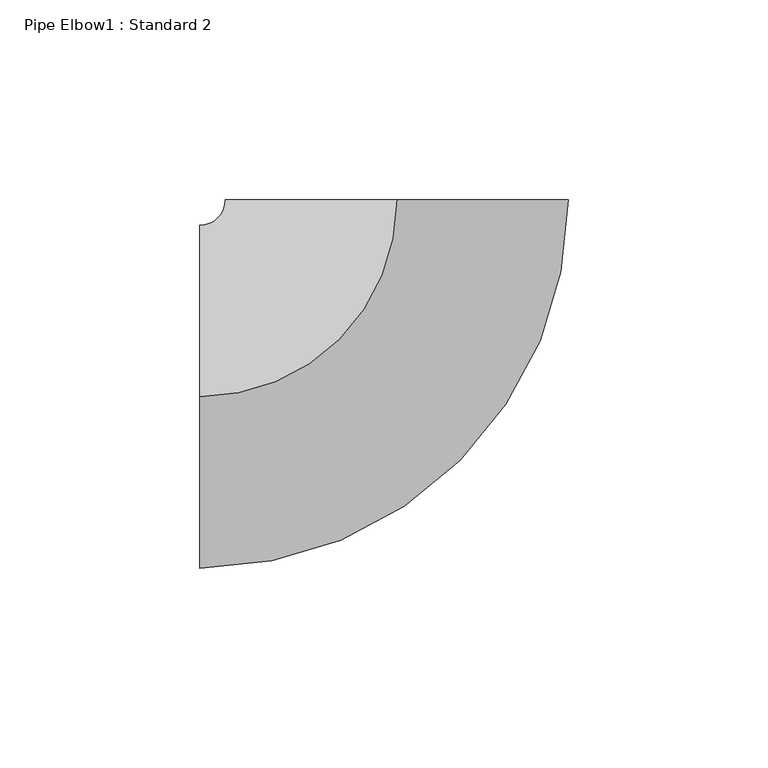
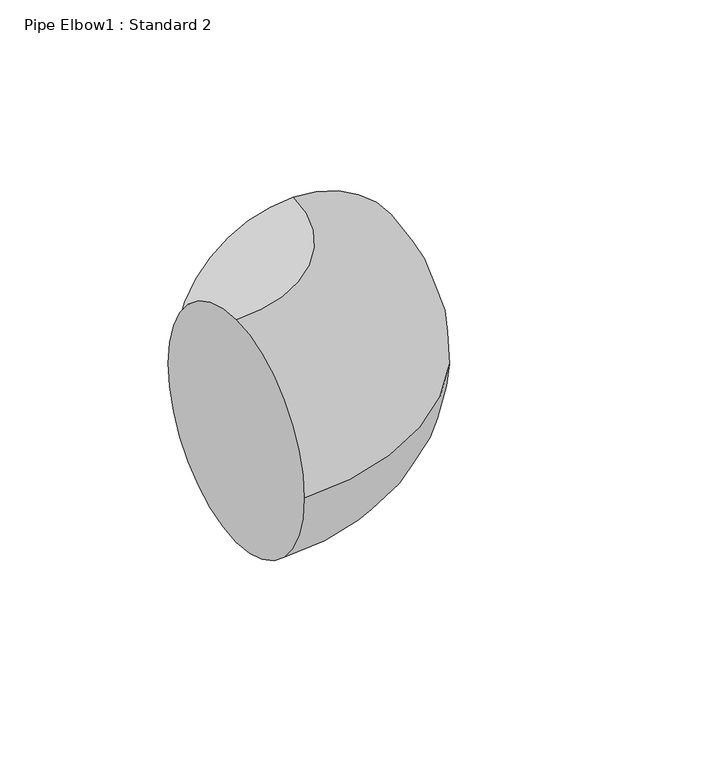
"""IFC4 building model written with IfcOpenShell, lengths in millimetres: pipe fitting geometry, Pipe Elbow1 : Standard 2."""

import ifcopenshell
import ifcopenshell.guid

model = None  # the IFC model being written
_history = None  # IfcOwnerHistory: only IFC2X3 demands one
_inside = {}  # id of a spatial element -> (the spatial element, [elements in it])
_under = {}  # id of a project, library or spatial element -> (it, [spatial elements below it])
_declared = {}  # id of a project -> (the project, [libraries it declares])
_typed = {}  # id of a type object -> (the type object, [elements of that type])
_made_of = {}  # id of a material, layer set ... -> (it, [elements and type objects made of it])


def new_model(schema):
    """Start an empty IFC model of exactly this schema.

    Asked for "IFC4X3", IfcOpenShell would pick the latest addendum, in which some entities
    have other attributes; the version numbers below select the first issue.
    IFC2X3 requires an IfcOwnerHistory on every rooted entity: one is made here for all.
    """
    global model, _history
    if schema == "IFC4X3":
        model = ifcopenshell.file(schema_version=(4, 3, 0, 0))
    else:
        model = ifcopenshell.file(schema=schema)
    _inside.clear()
    _under.clear()
    _declared.clear()
    _typed.clear()
    _made_of.clear()
    _history = None
    if model.schema == "IFC2X3":
        org = make("IfcOrganization", Name="unknown")
        user = make(
            "IfcPersonAndOrganization",
            ThePerson=make("IfcPerson", FamilyName="unknown"),
            TheOrganization=org,
        )
        app = make(
            "IfcApplication",
            ApplicationDeveloper=org,
            Version="unknown",
            ApplicationFullName="unknown",
            ApplicationIdentifier="unknown",
        )
        _history = make(
            "IfcOwnerHistory",
            OwningUser=user,
            OwningApplication=app,
            ChangeAction="ADDED",
            CreationDate=0,
        )
    return model


def make(cls, **values):
    """One entity of the class cls with the attributes given. An attribute that is None is left unset."""
    return model.create_entity(
        cls, **{name: value for name, value in values.items() if value is not None}
    )


def rooted(cls, **values):
    """An entity with a GlobalId (a new one), such as an element, a storey or a relation."""
    return make(cls, GlobalId=ifcopenshell.guid.new(), OwnerHistory=_history, **values)


def si_unit(unit_type, name, prefix=None):
    """IfcSIUnit, for example si_unit("LENGTHUNIT", "METRE", prefix="MILLI")."""
    return make("IfcSIUnit", UnitType=unit_type, Prefix=prefix, Name=name)


def assignment(units):
    """IfcUnitAssignment: the units of a project."""
    return None if units is None else make("IfcUnitAssignment", Units=units)


def point(xyz):
    """IfcCartesianPoint."""
    return None if xyz is None else make("IfcCartesianPoint", Coordinates=xyz)


def direction(xyz):
    """IfcDirection."""
    return None if xyz is None else make("IfcDirection", DirectionRatios=xyz)


def frame(location, z_axis=None, x_axis=None):
    """IfcAxis2Placement3D, a coordinate frame: its origin and axes. An axis left out is left unset."""
    return make(
        "IfcAxis2Placement3D",
        Location=point(location),
        Axis=direction(z_axis),
        RefDirection=direction(x_axis),
    )


def origin():
    """The frame at (0, 0, 0) with its axes left unset."""
    return frame((0.0, 0.0, 0.0))


def place(relative_to, where):
    """IfcLocalPlacement: puts the frame where relative to a parent placement (None: the world)."""
    return make(
        "IfcLocalPlacement", PlacementRelTo=relative_to, RelativePlacement=where
    )


def context(
    kind, dimensions, precision=None, world=None, true_north=None, identifier=None
):
    """IfcGeometricRepresentationContext, for example the 3D "Model" context."""
    return make(
        "IfcGeometricRepresentationContext",
        ContextIdentifier=identifier,
        ContextType=kind,
        CoordinateSpaceDimension=dimensions,
        Precision=precision,
        WorldCoordinateSystem=world,
        TrueNorth=true_north,
    )


def project(units=None, contexts=None):
    """IfcProject with its units and contexts."""
    return rooted(
        "IfcProject",
        Name="project",
        RepresentationContexts=contexts,
        UnitsInContext=assignment(units),
    )


def spatial(cls, under=None, at=None, **own):
    """A site, building, storey or space (cls), placed at a placement, below another one or the project."""
    s = rooted(cls, ObjectPlacement=at, **own)
    if under is not None:
        _under.setdefault(under.id(), (under, []))[1].append(s)
    return s


def circle_curve(where, radius):
    """IfcCircle in the frame where."""
    return make("IfcCircle", Position=where, Radius=radius)


def ellipse_curve(where, semi_axis1, semi_axis2):
    """IfcEllipse in the frame where."""
    return make(
        "IfcEllipse", Position=where, SemiAxis1=semi_axis1, SemiAxis2=semi_axis2
    )


def trimmed(basis, trim1, trim2, sense, master):
    """IfcTrimmedCurve: the piece of a basis curve between two trims."""
    return make(
        "IfcTrimmedCurve",
        BasisCurve=basis,
        Trim1=trim1,
        Trim2=trim2,
        SenseAgreement=sense,
        MasterRepresentation=master,
    )


def shape(context_of_items, identifier, shape_type, items):
    """IfcShapeRepresentation: the items that make up one representation, for example the "Body"."""
    return make(
        "IfcShapeRepresentation",
        ContextOfItems=context_of_items,
        RepresentationIdentifier=identifier,
        RepresentationType=shape_type,
        Items=items,
    )


def source(mapping_origin, context_of_items, identifier, shape_type, items):
    """IfcRepresentationMap: a shape defined once, which mapped items show again and again."""
    return make(
        "IfcRepresentationMap",
        MappingOrigin=mapping_origin,
        MappedRepresentation=shape(context_of_items, identifier, shape_type, items),
    )


def transform(
    local_origin,
    x_axis=None,
    y_axis=None,
    z_axis=None,
    scale=None,
    scale2=None,
    scale3=None,
    uniform=True,
):
    """IfcCartesianTransformationOperator3D, or its non-uniform kind. x_axis, y_axis, z_axis: its Axis1, 2, 3."""
    if uniform:
        return make(
            "IfcCartesianTransformationOperator3D",
            Axis1=direction(x_axis),
            Axis2=direction(y_axis),
            LocalOrigin=point(local_origin),
            Scale=scale,
            Axis3=direction(z_axis),
        )
    return make(
        "IfcCartesianTransformationOperator3DnonUniform",
        Axis1=direction(x_axis),
        Axis2=direction(y_axis),
        LocalOrigin=point(local_origin),
        Scale=scale,
        Axis3=direction(z_axis),
        Scale2=scale2,
        Scale3=scale3,
    )


def mapped(mapping_source, mapping_target):
    """IfcMappedItem: shows the shape of a source again, moved by a transform."""
    return make(
        "IfcMappedItem", MappingSource=mapping_source, MappingTarget=mapping_target
    )


def made_of(thing, what):
    """Note that an element or type object is made of a material, layer set ...; save() writes the relation."""
    if what is not None:
        _made_of.setdefault(what.id(), (what, []))[1].append(thing)
    return thing


def element(
    cls,
    number,
    at=None,
    inside=None,
    cuts=None,
    type_object=None,
    material=None,
    context=None,
    identifier="Body",
    shape_type=None,
    held_by="IfcProductDefinitionShape",
    body=None,
    shapes=None,
    **own,
):
    """One element of the class cls, such as IfcWall. Its Tag is "e" and its number.

    at: its placement. inside: the storey or other place that contains it. cuts: it is an
    opening in that element (IfcRelVoidsElement). A single representation is given by context,
    identifier, shape_type and body (its items); several are given by shapes. held_by: the class
    of the entity that holds the representations. save() writes the other relations.
    """
    e = rooted(cls, Tag="e%d" % number, ObjectPlacement=at, **own)
    if body is not None:
        shapes = [shape(context, identifier, shape_type, body)]
    if shapes is not None:
        e.Representation = make(held_by, Representations=shapes)
    if inside is not None:
        _inside.setdefault(inside.id(), (inside, []))[1].append(e)
    if cuts is not None:
        rooted(
            "IfcRelVoidsElement", RelatingBuildingElement=cuts, RelatedOpeningElement=e
        )
    if type_object is not None:
        _typed.setdefault(type_object.id(), (type_object, []))[1].append(e)
    return made_of(e, material)


def aggregate(whole, parts):
    """IfcRelAggregates: a whole, such as a stair, and the parts it consists of."""
    return rooted("IfcRelAggregates", RelatingObject=whole, RelatedObjects=parts)


def save(model, path):
    """Write the relations noted so far, then the file.

    IfcRelAggregates (storeys below a building ...), IfcRelContainedInSpatialStructure (elements
    in a storey), IfcRelDefinesByType, IfcRelAssociatesMaterial and IfcRelDeclares: one each for
    every whole, place, type object, material and project.
    """
    for whole, parts in _under.values():
        aggregate(whole, parts)
    for where, things in _inside.values():
        rooted(
            "IfcRelContainedInSpatialStructure",
            RelatedElements=things,
            RelatingStructure=where,
        )
    for kind, things in _typed.values():
        rooted("IfcRelDefinesByType", RelatedObjects=things, RelatingType=kind)
    for what, things in _made_of.values():
        rooted("IfcRelAssociatesMaterial", RelatedObjects=things, RelatingMaterial=what)
    for by, libraries in _declared.values():
        rooted("IfcRelDeclares", RelatingContext=by, RelatedDefinitions=libraries)
    model.write(path)


def plane_surface(at):
    """IfcPlane: the flat surface through the origin of the frame at, square to its z axis."""
    return make("IfcPlane", Position=at)


def revolved_surface(curve, axis_point, axis_direction):
    """IfcSurfaceOfRevolution: the curve turned about the line through axis_point along axis_direction."""
    return make(
        "IfcSurfaceOfRevolution",
        SweptCurve=make("IfcArbitraryOpenProfileDef", ProfileType="CURVE", Curve=curve),
        AxisPosition=make("IfcAxis1Placement", Location=point(axis_point), Axis=direction(axis_direction)),
    )


def advanced_brep(points, edges, surfaces, faces):
    """IfcAdvancedBrep: a solid bounded by faces that lie on surfaces and meet in shared edges.

    An edge is (start, end): straight between two places in points (the first is 0);
    or (start, end, curve); or (start, end, curve, False) where it runs against its curve.
    A face is (place in surfaces, loops), or (place, loops, False) where it looks against
    its surface's normal. A loop lists edges by number (the first is 1), with a minus sign
    where the edge is run from its end to its start. The first loop is the outer one.
    """
    corners = [point(p) for p in points]
    vertices = [make("IfcVertexPoint", VertexGeometry=c) for c in corners]
    made = []
    for start, end, *more in edges:
        made.append(
            make(
                "IfcEdgeCurve",
                EdgeStart=vertices[start],
                EdgeEnd=vertices[end],
                EdgeGeometry=more[0] if more else make("IfcPolyline", Points=[corners[start], corners[end]]),
                SameSense=more[1] if len(more) > 1 else True,
            )
        )
    hull = []
    for where, loops, *sense in faces:
        bounds = []
        for j, loop in enumerate(loops):
            ring = [make("IfcOrientedEdge", EdgeElement=made[abs(k) - 1], Orientation=k > 0) for k in loop]
            bounds.append(
                make(
                    "IfcFaceOuterBound" if j == 0 else "IfcFaceBound",
                    Bound=make("IfcEdgeLoop", EdgeList=ring),
                    Orientation=True,
                )
            )
        hull.append(make("IfcAdvancedFace", Bounds=bounds, FaceSurface=surfaces[where], SameSense=sense[0] if sense else True))
    return make("IfcAdvancedBrep", Outer=make("IfcClosedShell", CfsFaces=hull))


def pipe_elbow1_standard_2_37b9a8da(model_context):
    return source(origin(), model_context, "Body", "AdvancedBrep", [
        advanced_brep(
        [(-49.2125, 0.0, 42.8625), (-49.2125, 42.8625, 0.0), (-49.2125, 0.0, -42.8625), (-49.2125, -42.8625, 0.0), (0.0, 49.2125, 42.8625), (42.8625, 49.2125, 0.0), (0.0, 49.2125, -42.8625), (-42.8625, 49.2125, 0.0)],
        [
            (0, 1, circle_curve(frame((-49.2125, 0.0, 0.0), z_axis=(-1.0, 0.0, 0.0), x_axis=(0.0, 1.0, 0.0)), 42.8625)),
            (1, 2, circle_curve(frame((-49.2125, 0.0, 0.0), z_axis=(-1.0, 0.0, 0.0), x_axis=(0.0, 1.0, 0.0)), 42.8625)),
            (2, 3, circle_curve(frame((-49.2125, 0.0, 0.0), z_axis=(-1.0, 0.0, 0.0), x_axis=(0.0, 1.0, 0.0)), 42.8625)),
            (3, 0, circle_curve(frame((-49.2125, 0.0, 0.0), z_axis=(-1.0, 0.0, 0.0), x_axis=(0.0, 1.0, 0.0)), 42.8625)),
            (4, 5, circle_curve(frame((0.0, 49.2125, 0.0), z_axis=(0.0, 1.0, 0.0), x_axis=(-1.0, 0.0, 0.0)), 42.8625)),
            (5, 6, circle_curve(frame((0.0, 49.2125, 0.0), z_axis=(0.0, 1.0, 0.0), x_axis=(-1.0, 0.0, 0.0)), 42.8625)),
            (6, 7, circle_curve(frame((0.0, 49.2125, 0.0), z_axis=(0.0, 1.0, 0.0), x_axis=(-1.0, 0.0, 0.0)), 42.8625)),
            (7, 4, circle_curve(frame((0.0, 49.2125, 0.0), z_axis=(0.0, 1.0, 0.0), x_axis=(-1.0, 0.0, 0.0)), 42.8625)),
            (7, 1, circle_curve(frame((-49.2125, 49.2125, 0.0), z_axis=(0.0, 0.0, -1.0), x_axis=(0.0, -1.0, 0.0)), 6.35)),
            (0, 4, circle_curve(frame((-49.2125, 49.2125, 42.8625), z_axis=(0.0, 0.0, 1.0), x_axis=(0.0, -1.0, 0.0)), 49.2125)),
            (6, 2, circle_curve(frame((-49.2125, 49.2125, -42.8625), z_axis=(0.0, 0.0, -1.0), x_axis=(0.0, -1.0, 0.0)), 49.2125)),
            (5, 3, circle_curve(frame((-49.2125, 49.2125, 0.0), z_axis=(0.0, 0.0, -1.0), x_axis=(0.0, -1.0, 0.0)), 92.075)),
        ],
        [
            plane_surface(frame((-49.2125, 0.0, 0.0), z_axis=(-1.0, 0.0, 0.0), x_axis=(0.0, 0.0, 1.0))),
            plane_surface(frame((0.0, 49.2125, 0.0), z_axis=(0.0, 1.0, 0.0), x_axis=(0.0, 0.0, 1.0))),
            revolved_surface(trimmed(ellipse_curve(frame((-49.2125, 0.0, 0.0), z_axis=(-1.0, 0.0, 0.0), x_axis=(0.0, 1.0, 0.0)), 42.8625, 42.8625), [point((-49.2125, 0.0, 42.8625))], [point((-49.2125, 42.8625, 0.0))], True, "CARTESIAN"), (-49.2125, 49.2125, 0.0), (0.0, 0.0, 1.0)),
            revolved_surface(trimmed(ellipse_curve(frame((-49.2125, 0.0, 0.0), z_axis=(-1.0, 0.0, 0.0), x_axis=(0.0, 1.0, 0.0)), 42.8625, 42.8625), [point((-49.2125, 42.8625, 0.0))], [point((-49.2125, 0.0, -42.8625))], True, "CARTESIAN"), (-49.2125, 49.2125, 0.0), (0.0, 0.0, 1.0)),
            revolved_surface(trimmed(ellipse_curve(frame((-49.2125, 0.0, 0.0), z_axis=(-1.0, 0.0, 0.0), x_axis=(0.0, 1.0, 0.0)), 42.8625, 42.8625), [point((-49.2125, 0.0, -42.8625))], [point((-49.2125, -42.8625, 0.0))], True, "CARTESIAN"), (-49.2125, 49.2125, 0.0), (0.0, 0.0, 1.0)),
            revolved_surface(trimmed(ellipse_curve(frame((-49.2125, 0.0, 0.0), z_axis=(-1.0, 0.0, 0.0), x_axis=(0.0, 1.0, 0.0)), 42.8625, 42.8625), [point((-49.2125, -42.8625, 0.0))], [point((-49.2125, 0.0, 42.8625))], True, "CARTESIAN"), (-49.2125, 49.2125, 0.0), (0.0, 0.0, 1.0)),
        ],
        [
            (0, [[1, 2, 3, 4]]),
            (1, [[5, 6, 7, 8]]),
            (2, [[9, -1, 10, -8]]),
            (3, [[11, -2, -9, -7]]),
            (4, [[12, -3, -11, -6]]),
            (5, [[-10, -4, -12, -5]]),
        ],
    ),
        advanced_brep(
        [(-49.2125, 0.0, 42.8625), (-49.2125, 42.8625, 0.0), (-49.2125, 0.0, -42.8625), (-49.2125, -42.8625, 0.0), (0.0, 49.2125, 42.8625), (42.8625, 49.2125, 0.0), (0.0, 49.2125, -42.8625), (-42.8625, 49.2125, 0.0)],
        [
            (0, 1, circle_curve(frame((-49.2125, 0.0, 0.0), z_axis=(-1.0, 0.0, 0.0), x_axis=(0.0, 1.0, 0.0)), 42.8625)),
            (1, 2, circle_curve(frame((-49.2125, 0.0, 0.0), z_axis=(-1.0, 0.0, 0.0), x_axis=(0.0, 1.0, 0.0)), 42.8625)),
            (2, 3, circle_curve(frame((-49.2125, 0.0, 0.0), z_axis=(-1.0, 0.0, 0.0), x_axis=(0.0, 1.0, 0.0)), 42.8625)),
            (3, 0, circle_curve(frame((-49.2125, 0.0, 0.0), z_axis=(-1.0, 0.0, 0.0), x_axis=(0.0, 1.0, 0.0)), 42.8625)),
            (4, 5, circle_curve(frame((0.0, 49.2125, 0.0), z_axis=(0.0, 1.0, 0.0), x_axis=(-1.0, 0.0, 0.0)), 42.8625)),
            (5, 6, circle_curve(frame((0.0, 49.2125, 0.0), z_axis=(0.0, 1.0, 0.0), x_axis=(-1.0, 0.0, 0.0)), 42.8625)),
            (6, 7, circle_curve(frame((0.0, 49.2125, 0.0), z_axis=(0.0, 1.0, 0.0), x_axis=(-1.0, 0.0, 0.0)), 42.8625)),
            (7, 4, circle_curve(frame((0.0, 49.2125, 0.0), z_axis=(0.0, 1.0, 0.0), x_axis=(-1.0, 0.0, 0.0)), 42.8625)),
            (7, 1, circle_curve(frame((-49.2125, 49.2125, 0.0), z_axis=(0.0, 0.0, -1.0), x_axis=(0.0, -1.0, 0.0)), 6.35)),
            (0, 4, circle_curve(frame((-49.2125, 49.2125, 42.8625), z_axis=(0.0, 0.0, 1.0), x_axis=(0.0, -1.0, 0.0)), 49.2125)),
            (6, 2, circle_curve(frame((-49.2125, 49.2125, -42.8625), z_axis=(0.0, 0.0, -1.0), x_axis=(0.0, -1.0, 0.0)), 49.2125)),
            (5, 3, circle_curve(frame((-49.2125, 49.2125, 0.0), z_axis=(0.0, 0.0, -1.0), x_axis=(0.0, -1.0, 0.0)), 92.075)),
        ],
        [
            plane_surface(frame((-49.2125, 0.0, 0.0), z_axis=(-1.0, 0.0, 0.0), x_axis=(0.0, 0.0, 1.0))),
            plane_surface(frame((0.0, 49.2125, 0.0), z_axis=(0.0, 1.0, 0.0), x_axis=(0.0, 0.0, 1.0))),
            revolved_surface(trimmed(ellipse_curve(frame((-49.2125, 0.0, 0.0), z_axis=(-1.0, 0.0, 0.0), x_axis=(0.0, 1.0, 0.0)), 42.8625, 42.8625), [point((-49.2125, 0.0, 42.8625))], [point((-49.2125, 42.8625, 0.0))], True, "CARTESIAN"), (-49.2125, 49.2125, 0.0), (0.0, 0.0, 1.0)),
            revolved_surface(trimmed(ellipse_curve(frame((-49.2125, 0.0, 0.0), z_axis=(-1.0, 0.0, 0.0), x_axis=(0.0, 1.0, 0.0)), 42.8625, 42.8625), [point((-49.2125, 42.8625, 0.0))], [point((-49.2125, 0.0, -42.8625))], True, "CARTESIAN"), (-49.2125, 49.2125, 0.0), (0.0, 0.0, 1.0)),
            revolved_surface(trimmed(ellipse_curve(frame((-49.2125, 0.0, 0.0), z_axis=(-1.0, 0.0, 0.0), x_axis=(0.0, 1.0, 0.0)), 42.8625, 42.8625), [point((-49.2125, 0.0, -42.8625))], [point((-49.2125, -42.8625, 0.0))], True, "CARTESIAN"), (-49.2125, 49.2125, 0.0), (0.0, 0.0, 1.0)),
            revolved_surface(trimmed(ellipse_curve(frame((-49.2125, 0.0, 0.0), z_axis=(-1.0, 0.0, 0.0), x_axis=(0.0, 1.0, 0.0)), 42.8625, 42.8625), [point((-49.2125, -42.8625, 0.0))], [point((-49.2125, 0.0, 42.8625))], True, "CARTESIAN"), (-49.2125, 49.2125, 0.0), (0.0, 0.0, 1.0)),
        ],
        [
            (0, [[1, 2, 3, 4]]),
            (1, [[5, 6, 7, 8]]),
            (2, [[9, -1, 10, -8]]),
            (3, [[11, -2, -9, -7]]),
            (4, [[12, -3, -11, -6]]),
            (5, [[-10, -4, -12, -5]]),
        ],
    ),
    ])


if __name__ == "__main__":
    model = new_model("IFC4")
    model_context = context("Model", 3, world=origin())
    ifc_project = project(units=[si_unit("LENGTHUNIT", "METRE", prefix="MILLI")], contexts=[model_context])
    site = spatial("IfcSite", under=ifc_project)
    building = spatial("IfcBuilding", under=site)
    placement = place(None, origin())
    pipe_elbow1_standard_2_shape = pipe_elbow1_standard_2_37b9a8da(model_context)
    element("IfcPipeFitting", 1, ObjectType="Pipe Elbow1 : Standard 2", at=placement, inside=building, context=model_context, shape_type="MappedRepresentation", body=[
        mapped(pipe_elbow1_standard_2_shape, transform((0.0, 0.0, 0.0), x_axis=(1.0, 0.0, 0.0), y_axis=(0.0, 1.0, 0.0), z_axis=(0.0, 0.0, 1.0))),
    ])
    save(model, "model.ifc")
